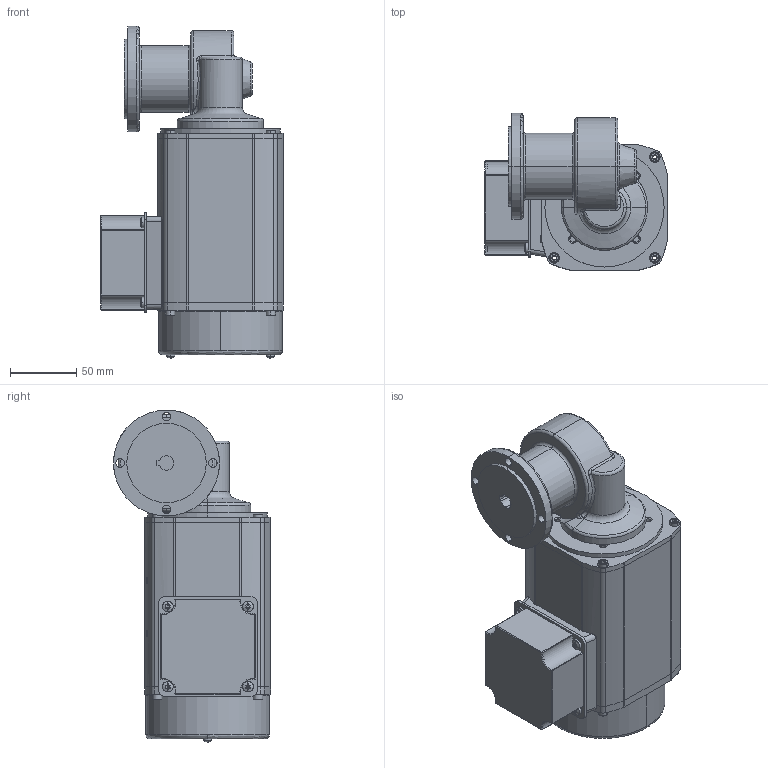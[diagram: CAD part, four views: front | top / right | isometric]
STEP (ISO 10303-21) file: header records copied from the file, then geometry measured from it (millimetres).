
FILE_DESCRIPTION (( 'STEP AP203' ), '1' );
FILE_NAME ('SN5FLHG-120W-D.STEP', '2017-04-18T10:26:54', ( '' ), ( '' ), 'SwSTEP 2.0', 'SolidWorks 2015', '' );
FILE_SCHEMA (( 'CONFIG_CONTROL_DESIGN' ));
Length unit declared in the file: millimetre
Products named in the file (3): SN5FLHG-120W-D; SN5FLH-Lose; NU9065 oF
Assembly tree (2 placements, depth 2):
  SN5FLHG-120W-D
    SN5FLH-Lose
    NU9065 oF
Bounding box: 138.01 x 118.5 x 250.57 mm (x, y, z)
Volume: 314266.5 mm3; surface area: 147248.7 mm2
Topology: 1 solids, 103 shells, 611 faces, 2181 edges, 1646 vertices
Faces by surface type: cylinder 238, plane 188, bspline 84, cone 77, torus 24
Entity records: 31579 total; most frequent: CARTESIAN_POINT 13729, DIRECTION 3480, ORIENTED_EDGE 3298, EDGE_CURVE 2179, VERTEX_POINT 1646, AXIS2_PLACEMENT_3D 1299, VECTOR 882, LINE 882
